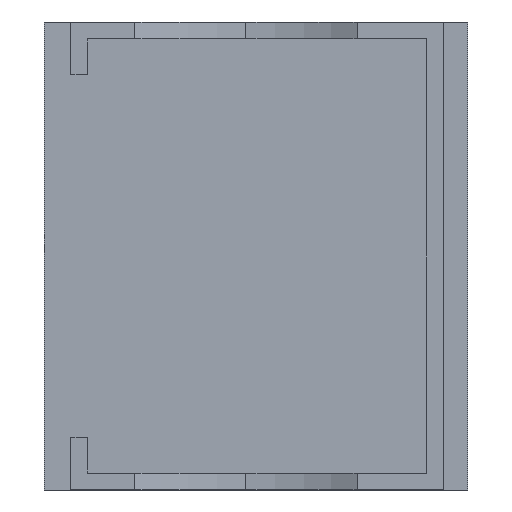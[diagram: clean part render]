
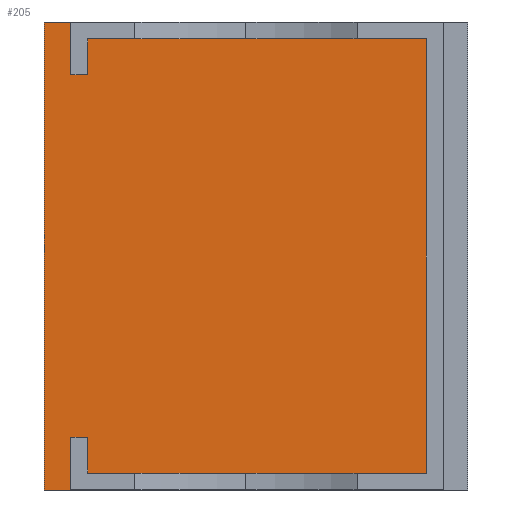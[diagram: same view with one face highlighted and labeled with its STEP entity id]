
A CAD part, left-side view. The second image highlights one B-rep face of the part: STEP entity #205.
In plain terms, the highlighted planar face has unit normal (-1, 0, 0).
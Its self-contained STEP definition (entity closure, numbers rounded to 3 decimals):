
#42 = CARTESIAN_POINT ( 'NONE',  ( -18.8, 18.8, 22.1 ) ) ;
#67 = EDGE_LOOP ( 'NONE', ( #214, #582, #826, #1088 ) ) ;
#68 = CARTESIAN_POINT ( 'NONE',  ( -18.8, 18.8, -107.365 ) ) ;
#153 = LINE ( 'NONE', #852, #722 ) ;
#205 = ADVANCED_FACE ( 'NONE', ( #671 ), #1123, .F. ) ;
#214 = ORIENTED_EDGE ( 'NONE', *, *, #449, .F. ) ;
#222 = DIRECTION ( 'NONE',  ( 0., 0., 1. ) ) ;
#226 = CARTESIAN_POINT ( 'NONE',  ( -18.8, -17.3, 22.1 ) ) ;
#285 = VERTEX_POINT ( 'NONE', #604 ) ;
#304 = VECTOR ( 'NONE', #566, 1000. ) ;
#322 = LINE ( 'NONE', #68, #304 ) ;
#383 = DIRECTION ( 'NONE',  ( 0., 1., 0. ) ) ;
#417 = DIRECTION ( 'NONE',  ( 1., 0., 0. ) ) ;
#449 = EDGE_CURVE ( 'NONE', #285, #1129, #451, .T. ) ;
#451 = LINE ( 'NONE', #901, #916 ) ;
#506 = CARTESIAN_POINT ( 'NONE',  ( -18.8, 18.8, -22.1 ) ) ;
#566 = DIRECTION ( 'NONE',  ( 0., 0., 1. ) ) ;
#582 = ORIENTED_EDGE ( 'NONE', *, *, #1021, .T. ) ;
#604 = CARTESIAN_POINT ( 'NONE',  ( -18.8, -17.3, -22.1 ) ) ;
#671 = FACE_OUTER_BOUND ( 'NONE', #67, .T. ) ;
#673 = DIRECTION ( 'NONE',  ( 0., 1., 0. ) ) ;
#722 = VECTOR ( 'NONE', #222, 1000. ) ;
#826 = ORIENTED_EDGE ( 'NONE', *, *, #1091, .T. ) ;
#840 = AXIS2_PLACEMENT_3D ( 'NONE', #1024, #417, #864 ) ;
#852 = CARTESIAN_POINT ( 'NONE',  ( -18.8, -17.3, 22.1 ) ) ;
#864 = DIRECTION ( 'NONE',  ( 0., 0., -1. ) ) ;
#901 = CARTESIAN_POINT ( 'NONE',  ( -18.8, -18.9, -22.1 ) ) ;
#916 = VECTOR ( 'NONE', #383, 1000. ) ;
#952 = VERTEX_POINT ( 'NONE', #42 ) ;
#1021 = EDGE_CURVE ( 'NONE', #285, #1038, #153, .T. ) ;
#1024 = CARTESIAN_POINT ( 'NONE',  ( -18.8, -18.9, -107.365 ) ) ;
#1026 = EDGE_CURVE ( 'NONE', #1129, #952, #322, .T. ) ;
#1038 = VERTEX_POINT ( 'NONE', #226 ) ;
#1041 = CARTESIAN_POINT ( 'NONE',  ( -18.8, -18.9, 22.1 ) ) ;
#1088 = ORIENTED_EDGE ( 'NONE', *, *, #1026, .F. ) ;
#1091 = EDGE_CURVE ( 'NONE', #1038, #952, #1136, .T. ) ;
#1118 = VECTOR ( 'NONE', #673, 1000. ) ;
#1123 = PLANE ( 'NONE',  #840 ) ;
#1129 = VERTEX_POINT ( 'NONE', #506 ) ;
#1136 = LINE ( 'NONE', #1041, #1118 ) ;
